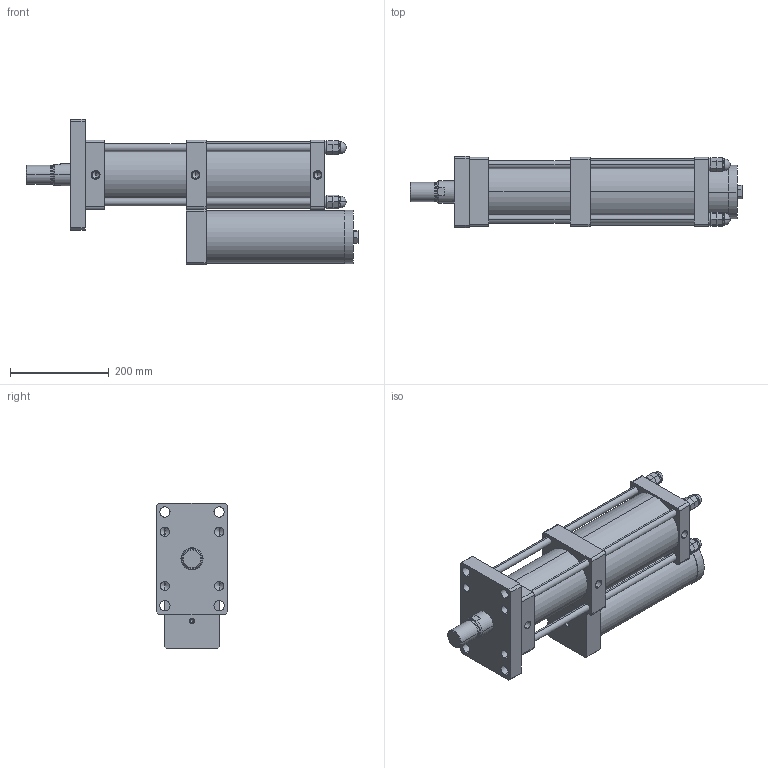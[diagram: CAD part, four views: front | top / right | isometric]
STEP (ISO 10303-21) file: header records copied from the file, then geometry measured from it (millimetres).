
FILE_DESCRIPTION (( 'STEP AP203' ), '1' );
FILE_NAME ('MPT-100-100-10-13T.STEP', '2016-03-28T10:18:49', ( 'WIN' ), ( '' ), 'SwSTEP 2.0', 'SolidWorks 2014', '' );
FILE_SCHEMA (( 'CONFIG_CONTROL_DESIGN' ));
Length unit declared in the file: millimetre
Products named in the file (1): MPT-100-100-10-13T
Bounding box: 673 x 145 x 294.5 mm (x, y, z)
Volume: 11348015 mm3; surface area: 721106.2 mm2
Topology: 13 solids, 13 shells, 400 faces, 980 edges, 555 vertices
Faces by surface type: plane 188, cylinder 80, torus 48, bspline 48, cone 36
Entity records: 12751 total; most frequent: CARTESIAN_POINT 3688, DIRECTION 1936, ORIENTED_EDGE 1812, EDGE_CURVE 906, AXIS2_PLACEMENT_3D 727, VERTEX_POINT 555, VECTOR 482, LINE 482
